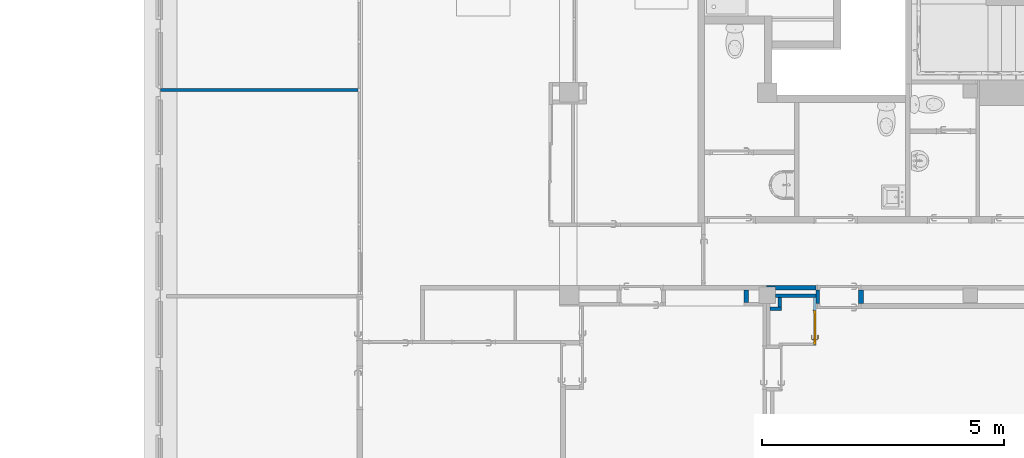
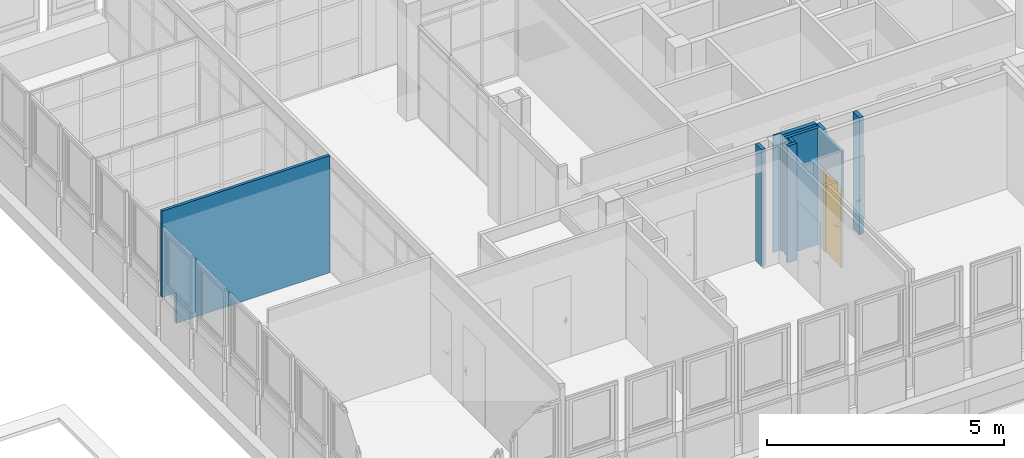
# One storey, part 73 of 97: 8 walls, 1 door, 2 openings, plus 1 element that does not belong to this part.
"""IFC4 building model written with IfcOpenShell, lengths in metres."""

import ifcopenshell
import ifcopenshell.guid

model = None  # the IFC model being written
_history = None  # IfcOwnerHistory: only IFC2X3 demands one
_inside = {}  # id of a spatial element -> (the spatial element, [elements in it])
_under = {}  # id of a project, library or spatial element -> (it, [spatial elements below it])
_declared = {}  # id of a project -> (the project, [libraries it declares])
_typed = {}  # id of a type object -> (the type object, [elements of that type])
_made_of = {}  # id of a material, layer set ... -> (it, [elements and type objects made of it])


def new_model(schema):
    """Start an empty IFC model of exactly this schema.

    Asked for "IFC4X3", IfcOpenShell would pick the latest addendum, in which some entities
    have other attributes; the version numbers below select the first issue.
    IFC2X3 requires an IfcOwnerHistory on every rooted entity: one is made here for all.
    """
    global model, _history
    if schema == "IFC4X3":
        model = ifcopenshell.file(schema_version=(4, 3, 0, 0))
    else:
        model = ifcopenshell.file(schema=schema)
    _inside.clear()
    _under.clear()
    _declared.clear()
    _typed.clear()
    _made_of.clear()
    _history = None
    if model.schema == "IFC2X3":
        org = make("IfcOrganization", Name="unknown")
        user = make(
            "IfcPersonAndOrganization",
            ThePerson=make("IfcPerson", FamilyName="unknown"),
            TheOrganization=org,
        )
        app = make(
            "IfcApplication",
            ApplicationDeveloper=org,
            Version="unknown",
            ApplicationFullName="unknown",
            ApplicationIdentifier="unknown",
        )
        _history = make(
            "IfcOwnerHistory",
            OwningUser=user,
            OwningApplication=app,
            ChangeAction="ADDED",
            CreationDate=0,
        )
    return model


def make(cls, **values):
    """One entity of the class cls with the attributes given. An attribute that is None is left unset."""
    return model.create_entity(
        cls, **{name: value for name, value in values.items() if value is not None}
    )


def entity(cls, *values):
    """Any entity or typed value of the class cls, its attributes in the order of the schema. None: left unset."""
    e = model.create_entity(cls)
    for i, value in enumerate(values):
        if value is not None:
            e[i] = value
    return e


def rooted(cls, **values):
    """An entity with a GlobalId (a new one), such as an element, a storey or a relation."""
    return make(cls, GlobalId=ifcopenshell.guid.new(), OwnerHistory=_history, **values)


def si_unit(unit_type, name, prefix=None):
    """IfcSIUnit, for example si_unit("LENGTHUNIT", "METRE", prefix="MILLI")."""
    return make("IfcSIUnit", UnitType=unit_type, Prefix=prefix, Name=name)


def converted_unit(unit_type, name, factor, base, dimensions=None, offset=None):
    """IfcConversionBasedUnit, such as the inch: factor (a typed value) times the base unit."""
    return make(
        "IfcConversionBasedUnit"
        if offset is None
        else "IfcConversionBasedUnitWithOffset",
        ConversionOffset=offset,
        Dimensions=None
        if dimensions is None
        else entity("IfcDimensionalExponents", *dimensions),
        UnitType=unit_type,
        Name=name,
        ConversionFactor=make(
            "IfcMeasureWithUnit", ValueComponent=factor, UnitComponent=base
        ),
    )


def derived_unit(unit_type, elements):
    """IfcDerivedUnit: a product of units, each with its exponent."""
    return make(
        "IfcDerivedUnit",
        Elements=[
            make("IfcDerivedUnitElement", Unit=unit, Exponent=power)
            for unit, power in elements
        ],
        UnitType=unit_type,
    )


def assignment(units):
    """IfcUnitAssignment: the units of a project."""
    return None if units is None else make("IfcUnitAssignment", Units=units)


def point(xyz):
    """IfcCartesianPoint."""
    return None if xyz is None else make("IfcCartesianPoint", Coordinates=xyz)


def direction(xyz):
    """IfcDirection."""
    return None if xyz is None else make("IfcDirection", DirectionRatios=xyz)


def frame(location, z_axis=None, x_axis=None):
    """IfcAxis2Placement3D, a coordinate frame: its origin and axes. An axis left out is left unset."""
    return make(
        "IfcAxis2Placement3D",
        Location=point(location),
        Axis=direction(z_axis),
        RefDirection=direction(x_axis),
    )


def origin():
    """The frame at (0, 0, 0) with its axes left unset."""
    return frame((0.0, 0.0, 0.0))


def place(relative_to, where):
    """IfcLocalPlacement: puts the frame where relative to a parent placement (None: the world)."""
    return make(
        "IfcLocalPlacement", PlacementRelTo=relative_to, RelativePlacement=where
    )


def context(
    kind, dimensions, precision=None, world=None, true_north=None, identifier=None
):
    """IfcGeometricRepresentationContext, for example the 3D "Model" context."""
    return make(
        "IfcGeometricRepresentationContext",
        ContextIdentifier=identifier,
        ContextType=kind,
        CoordinateSpaceDimension=dimensions,
        Precision=precision,
        WorldCoordinateSystem=world,
        TrueNorth=true_north,
    )


def subcontext(parent, identifier, kind, view, scale=None):
    """IfcGeometricRepresentationSubContext, for example "Body" below "Model"."""
    return make(
        "IfcGeometricRepresentationSubContext",
        ContextIdentifier=identifier,
        ContextType=kind,
        ParentContext=parent,
        TargetScale=scale,
        TargetView=view,
    )


def project(units=None, contexts=None):
    """IfcProject with its units and contexts."""
    return rooted(
        "IfcProject",
        Name="project",
        RepresentationContexts=contexts,
        UnitsInContext=assignment(units),
    )


def spatial(cls, under=None, at=None, **own):
    """A site, building, storey or space (cls), placed at a placement, below another one or the project."""
    s = rooted(cls, ObjectPlacement=at, **own)
    if under is not None:
        _under.setdefault(under.id(), (under, []))[1].append(s)
    return s


def point_list(points):
    """IfcCartesianPointList2D or 3D."""
    cls = (
        "IfcCartesianPointList2D" if len(points[0]) == 2 else "IfcCartesianPointList3D"
    )
    return make(cls, CoordList=points)


def indexed_curve(points, segments=None, self_intersect=None):
    """IfcIndexedPolyCurve: lines and arcs through numbered points (the first is 1)."""
    return make(
        "IfcIndexedPolyCurve",
        Points=point_list(points),
        Segments=segments,
        SelfIntersect=self_intersect,
    )


def outline(outer, holes=None, kind="AREA"):
    """IfcArbitraryClosedProfileDef: a profile drawn as a closed curve; with holes, ...WithVoids."""
    if holes is None:
        return make("IfcArbitraryClosedProfileDef", ProfileType=kind, OuterCurve=outer)
    return make(
        "IfcArbitraryProfileDefWithVoids",
        ProfileType=kind,
        OuterCurve=outer,
        InnerCurves=holes,
    )


def extrude(swept, where, along, depth):
    """IfcExtrudedAreaSolid: the profile swept, set in the frame where, extruded along a direction by depth."""
    return make(
        "IfcExtrudedAreaSolid",
        SweptArea=swept,
        Position=where,
        ExtrudedDirection=direction(along),
        Depth=depth,
    )


def polygons(points, faces, closed=None, point_numbers=None):
    """IfcPolygonalFaceSet: a face is its outer loop, then its inner loops; points numbered from 1."""
    made = []
    for loops in faces:
        if len(loops) == 1:
            made.append(make("IfcIndexedPolygonalFace", CoordIndex=loops[0]))
        else:
            made.append(
                make(
                    "IfcIndexedPolygonalFaceWithVoids",
                    CoordIndex=loops[0],
                    InnerCoordIndices=loops[1:],
                )
            )
    return make(
        "IfcPolygonalFaceSet",
        Coordinates=point_list(points),
        Closed=closed,
        Faces=made,
        PnIndex=point_numbers,
    )


def shape(context_of_items, identifier, shape_type, items):
    """IfcShapeRepresentation: the items that make up one representation, for example the "Body"."""
    return make(
        "IfcShapeRepresentation",
        ContextOfItems=context_of_items,
        RepresentationIdentifier=identifier,
        RepresentationType=shape_type,
        Items=items,
    )


def source(mapping_origin, context_of_items, identifier, shape_type, items):
    """IfcRepresentationMap: a shape defined once, which mapped items show again and again."""
    return make(
        "IfcRepresentationMap",
        MappingOrigin=mapping_origin,
        MappedRepresentation=shape(context_of_items, identifier, shape_type, items),
    )


def transform(
    local_origin,
    x_axis=None,
    y_axis=None,
    z_axis=None,
    scale=None,
    scale2=None,
    scale3=None,
    uniform=True,
):
    """IfcCartesianTransformationOperator3D, or its non-uniform kind. x_axis, y_axis, z_axis: its Axis1, 2, 3."""
    if uniform:
        return make(
            "IfcCartesianTransformationOperator3D",
            Axis1=direction(x_axis),
            Axis2=direction(y_axis),
            LocalOrigin=point(local_origin),
            Scale=scale,
            Axis3=direction(z_axis),
        )
    return make(
        "IfcCartesianTransformationOperator3DnonUniform",
        Axis1=direction(x_axis),
        Axis2=direction(y_axis),
        LocalOrigin=point(local_origin),
        Scale=scale,
        Axis3=direction(z_axis),
        Scale2=scale2,
        Scale3=scale3,
    )


def mapped(mapping_source, mapping_target):
    """IfcMappedItem: shows the shape of a source again, moved by a transform."""
    return make(
        "IfcMappedItem", MappingSource=mapping_source, MappingTarget=mapping_target
    )


def material(Name=None, Category=None):
    """IfcMaterial."""
    return make("IfcMaterial", Name=Name, Category=Category)


def material_list(materials):
    """IfcMaterialList."""
    return make("IfcMaterialList", Materials=materials)


def layer(
    of_material, thickness, ventilated=None, Name=None, Category=None, Priority=None
):
    """IfcMaterialLayer: one layer of a wall or slab, of a material (None: an air gap)."""
    return make(
        "IfcMaterialLayer",
        Material=of_material,
        LayerThickness=thickness,
        IsVentilated=ventilated,
        Name=Name,
        Category=Category,
        Priority=Priority,
    )


def layer_set(layers, Name=None):
    """IfcMaterialLayerSet."""
    return make("IfcMaterialLayerSet", MaterialLayers=layers, LayerSetName=Name)


def constituent(of_material, Name=None, Category=None, fraction=None):
    """IfcMaterialConstituent: one of the materials an element consists of."""
    return make(
        "IfcMaterialConstituent",
        Name=Name,
        Material=of_material,
        Fraction=fraction,
        Category=Category,
    )


def constituent_set(constituents=None, Name=None):
    """IfcMaterialConstituentSet."""
    return make(
        "IfcMaterialConstituentSet", Name=Name, MaterialConstituents=constituents
    )


def made_of(thing, what):
    """Note that an element or type object is made of a material, layer set ...; save() writes the relation."""
    if what is not None:
        _made_of.setdefault(what.id(), (what, []))[1].append(thing)
    return thing


def type_object(cls, material=None, **own):
    """A type object (cls), such as IfcWallType, which elements share."""
    return made_of(rooted(cls, **own), material)


def type_shapes(of_type, sources):
    """Give a type object the sources (RepresentationMaps) that its elements show as mapped items."""
    of_type.RepresentationMaps = sources


def element(
    cls,
    number,
    at=None,
    inside=None,
    cuts=None,
    type_object=None,
    material=None,
    context=None,
    identifier="Body",
    shape_type=None,
    held_by="IfcProductDefinitionShape",
    body=None,
    shapes=None,
    **own,
):
    """One element of the class cls, such as IfcWall. Its Tag is "e" and its number.

    at: its placement. inside: the storey or other place that contains it. cuts: it is an
    opening in that element (IfcRelVoidsElement). A single representation is given by context,
    identifier, shape_type and body (its items); several are given by shapes. held_by: the class
    of the entity that holds the representations. save() writes the other relations.
    """
    e = rooted(cls, Tag="e%d" % number, ObjectPlacement=at, **own)
    if body is not None:
        shapes = [shape(context, identifier, shape_type, body)]
    if shapes is not None:
        e.Representation = make(held_by, Representations=shapes)
    if inside is not None:
        _inside.setdefault(inside.id(), (inside, []))[1].append(e)
    if cuts is not None:
        rooted(
            "IfcRelVoidsElement", RelatingBuildingElement=cuts, RelatedOpeningElement=e
        )
    if type_object is not None:
        _typed.setdefault(type_object.id(), (type_object, []))[1].append(e)
    return made_of(e, material)


def fill(opening, filler):
    """IfcRelFillsElement: the door or window that sits in an opening."""
    return rooted(
        "IfcRelFillsElement",
        RelatingOpeningElement=opening,
        RelatedBuildingElement=filler,
    )


def aggregate(whole, parts):
    """IfcRelAggregates: a whole, such as a stair, and the parts it consists of."""
    return rooted("IfcRelAggregates", RelatingObject=whole, RelatedObjects=parts)


def save(model, path):
    """Write the relations noted so far, then the file.

    IfcRelAggregates (storeys below a building ...), IfcRelContainedInSpatialStructure (elements
    in a storey), IfcRelDefinesByType, IfcRelAssociatesMaterial and IfcRelDeclares: one each for
    every whole, place, type object, material and project.
    """
    for whole, parts in _under.values():
        aggregate(whole, parts)
    for where, things in _inside.values():
        rooted(
            "IfcRelContainedInSpatialStructure",
            RelatedElements=things,
            RelatingStructure=where,
        )
    for kind, things in _typed.values():
        rooted("IfcRelDefinesByType", RelatedObjects=things, RelatingType=kind)
    for what, things in _made_of.values():
        rooted("IfcRelAssociatesMaterial", RelatedObjects=things, RelatingMaterial=what)
    for by, libraries in _declared.values():
        rooted("IfcRelDeclares", RelatingContext=by, RelatedDefinitions=libraries)
    model.write(path)


model = new_model("IFC4")

# Units and contexts
model_context = context("Model", 3, precision=1e-05, world=origin(), true_north=direction((6.12303176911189e-17, 1.0)))
body_context = subcontext(model_context, "Body", "Model", "MODEL_VIEW")
ifc_project = project(units=[si_unit("LENGTHUNIT", "METRE"), si_unit("AREAUNIT", "SQUARE_METRE"), si_unit("VOLUMEUNIT", "CUBIC_METRE"), converted_unit("PLANEANGLEUNIT", "DEGREE", entity("IfcRatioMeasure", 0.0174532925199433), si_unit("PLANEANGLEUNIT", "RADIAN"), dimensions=[0, 0, 0, 0, 0, 0, 0]), si_unit("MASSUNIT", "GRAM", prefix="KILO"), derived_unit("MASSDENSITYUNIT", [(si_unit("MASSUNIT", "GRAM", prefix="KILO"), 1), (si_unit("LENGTHUNIT", "METRE"), -3)]), derived_unit("MOMENTOFINERTIAUNIT", [(si_unit("LENGTHUNIT", "METRE"), 4)]), si_unit("TIMEUNIT", "SECOND"), si_unit("FREQUENCYUNIT", "HERTZ"), si_unit("THERMODYNAMICTEMPERATUREUNIT", "DEGREE_CELSIUS"), derived_unit("THERMALTRANSMITTANCEUNIT", [(si_unit("MASSUNIT", "GRAM", prefix="KILO"), 1), (si_unit("THERMODYNAMICTEMPERATUREUNIT", "KELVIN"), -1), (si_unit("TIMEUNIT", "SECOND"), -3)]), derived_unit("VOLUMETRICFLOWRATEUNIT", [(si_unit("LENGTHUNIT", "METRE"), 3), (si_unit("TIMEUNIT", "SECOND"), -1)]), si_unit("ELECTRICCURRENTUNIT", "AMPERE"), si_unit("ELECTRICVOLTAGEUNIT", "VOLT"), si_unit("POWERUNIT", "WATT"), si_unit("FORCEUNIT", "NEWTON", prefix="KILO"), si_unit("ILLUMINANCEUNIT", "LUX"), si_unit("LUMINOUSFLUXUNIT", "LUMEN"), si_unit("LUMINOUSINTENSITYUNIT", "CANDELA"), derived_unit("USERDEFINED", [(si_unit("MASSUNIT", "GRAM", prefix="KILO"), -1), (si_unit("LENGTHUNIT", "METRE"), -2), (si_unit("TIMEUNIT", "SECOND"), 3), (si_unit("LUMINOUSFLUXUNIT", "LUMEN"), 1)]), derived_unit("LINEARVELOCITYUNIT", [(si_unit("LENGTHUNIT", "METRE"), 1), (si_unit("TIMEUNIT", "SECOND"), -1)]), si_unit("PRESSUREUNIT", "PASCAL"), derived_unit("USERDEFINED", [(si_unit("LENGTHUNIT", "METRE"), -2), (si_unit("MASSUNIT", "GRAM", prefix="KILO"), 1), (si_unit("TIMEUNIT", "SECOND"), -2)]), derived_unit("LINEARFORCEUNIT", [(si_unit("MASSUNIT", "GRAM", prefix="KILO"), 1), (si_unit("LENGTHUNIT", "METRE"), 1), (si_unit("TIMEUNIT", "SECOND"), -2), (si_unit("LENGTHUNIT", "METRE"), -1)]), derived_unit("PLANARFORCEUNIT", [(si_unit("MASSUNIT", "GRAM", prefix="KILO"), 1), (si_unit("LENGTHUNIT", "METRE"), 1), (si_unit("TIMEUNIT", "SECOND"), -2), (si_unit("LENGTHUNIT", "METRE"), -2)])], contexts=[model_context])

# Site, building, storey
site_placement = place(None, origin())
site = spatial("IfcSite", under=ifc_project, at=site_placement, Name="Default", CompositionType="ELEMENT")
building_placement = place(site_placement, origin())
building = spatial("IfcBuilding", under=site, at=building_placement, Name="HOTEL CONSULAIRE BOULOGNE SUR MER", CompositionType="ELEMENT")
storey_placement = place(building_placement, frame((0.0, 0.0, 3.62152697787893)))
storey = spatial("IfcBuildingStorey", under=building, at=storey_placement, Name="Niveau 1", CompositionType="ELEMENT", Elevation=3.62152697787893)

# Wall, opening, door
ifc_material_1 = material(Name="Mur par défaut", Category="Divers")
ifc_layer_1 = layer(ifc_material_1, 0.05, Name="Mur par défaut", Category="Divers")
ifc_layer_set_1 = layer_set([ifc_layer_1], Name="Mur de base:Générique - Int.50")
wall_type_1 = type_object("IfcWallType", Name="Mur de base:Générique - Int.50", PredefinedType="NOTDEFINED", material=ifc_layer_set_1)
wall_1_placement = place(storey_placement, frame((-0.252433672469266, -24.0647268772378, 0.0), z_axis=(0.0, 0.0, 1.0), x_axis=(0.0, -1.0, 0.0)))
wall_1 = element("IfcWall", 1, at=wall_1_placement, inside=storey, type_object=wall_type_1, material=ifc_layer_set_1, Name="Mur de base:Générique - Int.50", ObjectType="Mur de base:Générique - Int.50", PredefinedType="NOTDEFINED", context=body_context, shape_type="Tessellation", body=[
    polygons([(0.269964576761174, -0.0250000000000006, 0.0), (0.0, -0.0250000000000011, 0.0), (0.0, 0.0250000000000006, 0.0), (0.125964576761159, 0.0250000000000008, 0.0), (0.225964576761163, 0.0250000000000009, 0.0), (0.269964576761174, 0.025000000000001, 0.0), (0.990964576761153, -0.025, 3.01021454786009), (0.940964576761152, -0.025, 3.01021454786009), (0.0, -0.025, 3.01021454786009), (0.26996457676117, -0.025, 2.07500000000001), (0.969964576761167, -0.025, 2.07500000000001), (0.969964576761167, -0.025, 0.0), (0.990964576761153, -0.025, 0.0), (0.0, 0.025, 3.01021454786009), (0.125964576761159, 0.025, 3.01021454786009), (0.225964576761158, 0.025, 3.01021454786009), (0.990964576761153, 0.025, 3.01021454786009), (0.990964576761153, 0.025, 0.0), (0.969964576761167, 0.025, 0.0), (0.969964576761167, 0.025, 2.07500000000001), (0.269964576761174, 0.025, 2.07500000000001)], [[[5, 6, 1, 2, 3, 4]], [[11, 10, 21, 20]], [[12, 19, 18, 13]], [[2, 1, 10, 11, 12, 13, 7, 8, 9]], [[18, 19, 20, 21, 6, 5, 4, 3, 14, 15, 16, 17]], [[8, 7, 17, 16, 15, 14, 9]], [[7, 13, 18, 17]], [[10, 1, 6, 21]], [[12, 11, 20, 19]], [[3, 2, 9, 14]]], closed=True),
])
opening_1_placement = place(wall_1_placement, frame((0.269964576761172, -0.0249999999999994, 0.0)))
opening_1 = element("IfcOpeningElement", 2, at=opening_1_placement, cuts=wall_1, Name="Int. Simple:PP (0.63m x 2.04m):1", ObjectType="Opening", PredefinedType="OPENING", context=body_context, shape_type="SweptSolid", body=[
    extrude(outline(indexed_curve([(0.0, 2.70716782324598e-15), (2.07500000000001, 2.70716782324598e-15), (2.07500000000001, 0.699999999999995), (0.0, 0.699999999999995), (0.0, 2.70716782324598e-15)], self_intersect=False)), frame((0.0, 0.0, 0.0), z_axis=(0.0, 1.0, 0.0), x_axis=(0.0, 0.0, 1.0)), (0.0, 0.0, 1.0), 0.05),
])
ifc_material_2 = material(Name="Finition Peinture - Blanc satiné", Category="Peinture")
ifc_constituent_1 = constituent(ifc_material_2, Name="Finition Peinture - Blanc satiné", Category="Matériaux")
ifc_material_3 = material(Name="Bois - Panneau de porte", Category="Bois")
ifc_constituent_2 = constituent(ifc_material_3, Name="Bois - Panneau de porte", Category="Matériaux")
ifc_material_4 = material(Name="Bois - Cadre de porte", Category="Bois")
ifc_constituent_3 = constituent(ifc_material_4, Name="Bois - Cadre de porte", Category="Matériaux")
ifc_constituent_set = constituent_set(constituents=[ifc_constituent_1, ifc_constituent_2, ifc_constituent_3], Name="MaterialConstituentSet")
ifc_material_list = material_list([ifc_material_4, ifc_material_3, ifc_material_2, ifc_material_4])
door_type = type_object("IfcDoorType", Name="Int. Simple:PP (0.63m x 2.04m)", OperationType="NOTDEFINED", PredefinedType="DOOR", material=ifc_material_list)
shared_shape = source(origin(), body_context, "Body", "Tessellation", [
    polygons([(0.0750000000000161, -0.00500000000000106, 0.870000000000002), (0.0846472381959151, -0.00500000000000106, 0.866003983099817), (0.0950000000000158, -0.00500000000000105, 0.86464101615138), (0.105352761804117, -0.00500000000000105, 0.866003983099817), (0.115000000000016, -0.00500000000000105, 0.870000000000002), (0.115000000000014, -0.00500000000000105, 1.08), (0.105352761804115, -0.00500000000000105, 1.08399601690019), (0.0950000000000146, -0.00500000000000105, 1.08535898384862), (0.0846472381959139, -0.00500000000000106, 1.08399601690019), (0.0750000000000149, -0.00500000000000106, 1.08), (0.0750000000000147, -1.06594733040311e-15, 0.870000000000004), (0.075000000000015, -1.06594733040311e-15, 1.08), (0.084647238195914, -1.06171738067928e-15, 1.08399601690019), (0.0950000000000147, -1.05748743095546e-15, 1.08535898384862), (0.105352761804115, -1.05325748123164e-15, 1.08399601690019), (0.115000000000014, -1.04902753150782e-15, 1.08), (0.115000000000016, -1.04902753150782e-15, 0.870000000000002), (0.105352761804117, -1.05325748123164e-15, 0.866003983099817), (0.0950000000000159, -1.05748743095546e-15, 0.86464101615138), (0.0846472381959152, -1.06171738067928e-15, 0.866003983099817)], [[[4, 5, 6, 7, 8, 9, 10, 1, 2, 3]], [[15, 16, 17, 18, 19, 20, 11, 12, 13, 14]], [[11, 20, 2, 1]], [[2, 20, 19, 3]], [[19, 18, 4, 3]], [[18, 17, 5, 4]], [[6, 5, 17, 16]], [[16, 15, 7, 6]], [[7, 15, 14, 8]], [[14, 13, 9, 8]], [[13, 12, 10, 9]], [[1, 10, 12, 11]]], closed=True),
    polygons([(0.115000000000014, 0.0399999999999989, 1.08), (0.105352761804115, 0.0399999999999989, 1.08399601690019), (0.0950000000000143, 0.0399999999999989, 1.08535898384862), (0.0846472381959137, 0.0399999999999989, 1.08399601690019), (0.0750000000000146, 0.0399999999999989, 1.08), (0.0750000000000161, 0.0399999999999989, 0.870000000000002), (0.0846472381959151, 0.0399999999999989, 0.866003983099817), (0.0950000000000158, 0.0399999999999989, 0.86464101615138), (0.105352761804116, 0.0399999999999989, 0.866003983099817), (0.115000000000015, 0.0399999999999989, 0.870000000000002), (0.115000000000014, 0.0449999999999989, 1.08), (0.115000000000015, 0.0449999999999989, 0.870000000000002), (0.105352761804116, 0.0449999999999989, 0.866003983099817), (0.0950000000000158, 0.0449999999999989, 0.86464101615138), (0.0846472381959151, 0.0449999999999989, 0.866003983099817), (0.0750000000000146, 0.0449999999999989, 0.870000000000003), (0.0750000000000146, 0.0449999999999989, 1.08), (0.0846472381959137, 0.0449999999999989, 1.08399601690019), (0.0950000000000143, 0.0449999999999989, 1.08535898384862), (0.105352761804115, 0.0449999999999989, 1.08399601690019)], [[[9, 10, 1, 2, 3, 4, 5, 6, 7, 8]], [[20, 11, 12, 13, 14, 15, 16, 17, 18, 19]], [[11, 20, 2, 1]], [[2, 20, 19, 3]], [[19, 18, 4, 3]], [[18, 17, 5, 4]], [[6, 5, 17, 16]], [[16, 15, 7, 6]], [[7, 15, 14, 8]], [[14, 13, 9, 8]], [[13, 12, 10, 9]], [[1, 10, 12, 11]]], closed=True),
    polygons([(0.0889999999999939, -0.00500000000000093, 1.007), (0.0929747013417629, -0.00500000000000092, 1.00778044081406), (0.0970252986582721, -0.0050000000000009, 1.00778044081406), (0.101000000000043, -0.00500000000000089, 1.00699999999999), (0.101000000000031, -0.00500000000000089, 0.993000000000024), (0.097025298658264, -0.0050000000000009, 0.992219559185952), (0.0929747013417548, -0.00500000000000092, 0.99221955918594), (0.088999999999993, -0.00500000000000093, 0.992999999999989), (0.0889999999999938, -0.0326509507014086, 1.007), (0.0929747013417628, -0.0310045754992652, 1.00778044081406), (0.097025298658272, -0.0293267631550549, 1.00778044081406), (0.101000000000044, -0.0276803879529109, 1.007), (0.101000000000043, -0.0276803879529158, 0.993000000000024), (0.097025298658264, -0.0293267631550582, 0.992219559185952), (0.0929747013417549, -0.0310045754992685, 0.99221955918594), (0.0889999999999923, -0.0326509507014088, 0.992999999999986), (0.107377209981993, -0.0510281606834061, 1.007), (0.109023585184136, -0.0470534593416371, 1.00778044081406), (0.110701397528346, -0.0430028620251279, 1.00778044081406), (0.112347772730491, -0.0390281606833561, 1.007), (0.112347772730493, -0.0390281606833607, 0.993000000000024), (0.110701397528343, -0.0430028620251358, 0.992219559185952), (0.109023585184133, -0.047053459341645, 0.99221955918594), (0.107377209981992, -0.0510281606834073, 0.992999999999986), (0.195018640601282, -0.0510281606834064, 1.00699999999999), (0.195018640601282, -0.0510281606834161, 0.992999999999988), (0.195018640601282, -0.0470534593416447, 0.99221955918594), (0.195018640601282, -0.0430028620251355, 0.992219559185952), (0.195018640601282, -0.039028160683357, 0.993000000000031), (0.195018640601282, -0.0390281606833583, 1.007), (0.195018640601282, -0.0430028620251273, 1.00778044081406), (0.195018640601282, -0.0470534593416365, 1.00778044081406), (0.147307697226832, -0.0510281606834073, 1.007), (0.152860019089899, -0.045028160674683, 1.0078786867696), (0.153683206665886, -0.039028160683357, 1.007), (0.147307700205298, -0.0510281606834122, 0.992999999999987), (0.152860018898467, -0.0450281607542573, 0.992121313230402), (0.153683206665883, -0.0390281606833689, 0.993000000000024)], [[[2, 3, 4, 5, 6, 7, 8, 1]], [[21, 20, 35, 30, 29, 38]], [[9, 10, 2, 1]], [[10, 18, 19, 11, 3, 2]], [[11, 12, 4, 3]], [[5, 4, 12, 13]], [[26, 27, 28, 29, 30, 31, 32, 25]], [[13, 14, 6, 5]], [[14, 22, 23, 15, 7, 6]], [[15, 16, 8, 7]], [[1, 8, 16, 9]], [[17, 18, 10, 9]], [[19, 20, 12, 11]], [[13, 12, 20, 21]], [[21, 22, 14, 13]], [[23, 24, 16, 15]], [[9, 16, 24, 17]], [[33, 32, 34]], [[25, 32, 33]], [[18, 17, 33]], [[34, 35, 19]], [[20, 19, 35]], [[35, 31, 30]], [[32, 31, 34]], [[31, 35, 34]], [[18, 33, 34]], [[18, 34, 19]], [[38, 28, 37]], [[36, 37, 27]], [[21, 38, 22]], [[38, 29, 28]], [[26, 36, 27]], [[24, 23, 36]], [[36, 23, 37]], [[23, 22, 37]], [[22, 38, 37]], [[27, 37, 28]], [[17, 24, 36, 26, 25, 33]]], closed=True),
    polygons([(0.101000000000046, 0.0449999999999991, 0.993000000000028), (0.101000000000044, 0.0449999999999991, 1.007), (0.0970252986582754, 0.0449999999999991, 1.00778044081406), (0.0929747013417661, 0.0449999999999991, 1.00778044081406), (0.0889999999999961, 0.044999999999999, 1.007), (0.0889999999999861, 0.044999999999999, 0.992999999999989), (0.0929747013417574, 0.0449999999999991, 0.99221955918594), (0.0970252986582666, 0.0449999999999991, 0.992219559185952), (0.101000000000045, 0.067485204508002, 0.993000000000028), (0.101000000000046, 0.0674852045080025, 1.007), (0.0970252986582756, 0.0691315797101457, 1.00778044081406), (0.0929747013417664, 0.070809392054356, 1.00778044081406), (0.0889999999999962, 0.0724557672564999, 1.007), (0.0889999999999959, 0.072455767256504, 0.992999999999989), (0.0929747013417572, 0.0708093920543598, 0.99221955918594), (0.0970252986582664, 0.0691315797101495, 0.992219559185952), (0.112485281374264, 0.0789704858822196, 0.993000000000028), (0.112485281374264, 0.0789704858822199, 1.007), (0.11083890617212, 0.0829451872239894, 1.00778044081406), (0.10916109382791, 0.0869957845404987, 1.00778044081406), (0.107514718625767, 0.0909704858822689, 1.007), (0.107514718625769, 0.090970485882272, 0.992999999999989), (0.109161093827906, 0.0869957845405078, 0.99221955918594), (0.110838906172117, 0.0829451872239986, 0.992219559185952), (0.19504578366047, 0.0789704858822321, 0.993000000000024), (0.19504578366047, 0.0829451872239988, 0.992219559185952), (0.19504578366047, 0.086995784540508, 0.99221955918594), (0.19504578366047, 0.0909704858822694, 0.992999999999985), (0.19504578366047, 0.0909704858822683, 1.007), (0.19504578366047, 0.0869957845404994, 1.00778044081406), (0.19504578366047, 0.0829451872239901, 1.00778044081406), (0.19504578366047, 0.0789704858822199, 1.007), (0.147445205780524, 0.0909704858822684, 1.007), (0.15294234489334, 0.0849704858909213, 1.0078786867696), (0.153765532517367, 0.0789704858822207, 1.007), (0.147445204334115, 0.0909704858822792, 0.992999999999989), (0.152942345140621, 0.0849704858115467, 0.992121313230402), (0.153765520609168, 0.0789704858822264, 0.993000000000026)], [[[4, 5, 6, 7, 8, 1, 2, 3]], [[18, 17, 38, 25, 32, 35]], [[2, 1, 9, 10]], [[25, 26, 27, 28, 29, 30, 31, 32]], [[10, 11, 3, 2]], [[11, 19, 20, 12, 4, 3]], [[12, 13, 5, 4]], [[6, 5, 13, 14]], [[14, 15, 7, 6]], [[15, 23, 24, 16, 8, 7]], [[16, 9, 1, 8]], [[10, 9, 17, 18]], [[18, 19, 11, 10]], [[20, 21, 13, 12]], [[14, 13, 21, 22]], [[22, 23, 15, 14]], [[24, 17, 9, 16]], [[35, 31, 34]], [[33, 34, 30]], [[18, 35, 19]], [[35, 32, 31]], [[29, 33, 30]], [[21, 20, 33]], [[33, 20, 34]], [[20, 19, 34]], [[19, 35, 34]], [[30, 34, 31]], [[21, 33, 29, 28, 36, 22]], [[36, 27, 37]], [[28, 27, 36]], [[23, 22, 36]], [[37, 38, 24]], [[17, 24, 38]], [[38, 26, 25]], [[27, 26, 37]], [[26, 38, 37]], [[23, 36, 37]], [[23, 37, 24]]], closed=True),
    polygons([(0.0350000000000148, 0.04, 2.04), (0.665000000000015, 0.04, 2.04), (0.665000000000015, 0.04, 0.0), (0.0350000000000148, 0.04, 0.0), (0.0350000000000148, 3.38395977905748e-17, 2.04), (0.0350000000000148, 3.38395977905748e-17, 0.0), (0.665000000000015, 3.38395977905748e-17, 0.0), (0.665000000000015, 3.38395977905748e-17, 2.04)], [[[4, 1, 2, 3]], [[7, 8, 5, 6]], [[2, 1, 5, 8]], [[3, 2, 8, 7]], [[4, 3, 7, 6]], [[1, 4, 6, 5]]], closed=True),
    polygons([(-2.70716782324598e-16, 0.0, 0.0), (-2.70716782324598e-16, 0.050000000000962, 0.0), (0.050000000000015, 0.050000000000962, 0.0), (0.050000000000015, 0.040000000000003, 0.0), (0.0350000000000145, 0.040000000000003, 0.0), (0.0350000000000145, 0.0, 0.0), (-2.03037586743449e-16, 0.0, 2.07500000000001), (-2.03037586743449e-16, 0.050000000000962, 2.07500000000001), (0.699999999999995, 0.050000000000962, 2.07500000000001), (0.699999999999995, 0.050000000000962, 1.16645647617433e-24), (0.64999999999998, 0.050000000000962, -1.79828591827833e-24), (0.64999999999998, 0.050000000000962, 2.025), (0.0500000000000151, 0.050000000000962, 2.02499999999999), (0.0500000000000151, 0.040000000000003, 2.02499999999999), (0.64999999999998, 0.040000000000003, 2.025), (0.64999999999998, 0.040000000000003, 1.49408317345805e-25), (0.66499999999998, 0.040000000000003, 1.4641916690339e-24), (0.66499999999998, 0.040000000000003, 2.04), (0.0350000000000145, 0.040000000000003, 2.04), (0.0350000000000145, 0.0, 2.04), (0.66499999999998, 0.0, 2.04), (0.66499999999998, 0.0, 0.0), (0.699999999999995, 0.0, 4.03399441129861e-24), (0.699999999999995, 0.0, 2.07500000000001)], [[[5, 6, 1, 2, 3, 4]], [[16, 11, 10, 23, 22, 17]], [[14, 13, 12, 15]], [[20, 19, 18, 21]], [[2, 1, 7, 8]], [[15, 12, 11, 16]], [[21, 18, 17, 22]], [[3, 2, 8, 9, 10, 11, 12, 13]], [[4, 3, 13, 14]], [[6, 5, 19, 20]], [[9, 24, 23, 10]], [[16, 17, 18, 19, 5, 4, 14, 15]], [[22, 23, 24, 7, 1, 6, 20, 21]], [[8, 7, 24, 9]]], closed=True),
    polygons([(0.0149999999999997, 0.050000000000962, 0.0), (-0.0150000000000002, 0.050000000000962, 0.0), (-0.0150000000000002, 0.055000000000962, 0.0), (0.0149999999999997, 0.055000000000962, 0.0), (0.0149999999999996, 0.050000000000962, 2.06000000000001), (0.684999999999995, 0.050000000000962, 2.06000000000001), (0.684999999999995, 0.050000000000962, -5.40476895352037e-24), (0.714999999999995, 0.050000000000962, 1.09662010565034e-24), (0.714999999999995, 0.050000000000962, 2.09000000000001), (-0.0150000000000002, 0.050000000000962, 2.09000000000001), (-0.0150000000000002, 0.055000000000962, 2.09000000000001), (0.714999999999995, 0.055000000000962, 2.09000000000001), (0.714999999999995, 0.055000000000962, 9.94022571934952e-24), (0.684999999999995, 0.055000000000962, 3.01102000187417e-24), (0.684999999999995, 0.055000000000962, 2.06000000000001), (0.0149999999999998, 0.055000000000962, 2.06000000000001)], [[[2, 3, 4, 1]], [[14, 13, 8, 7]], [[5, 16, 15, 6]], [[7, 8, 9, 10, 2, 1, 5, 6]], [[3, 2, 10, 11]], [[6, 15, 14, 7]], [[4, 3, 11, 12, 13, 14, 15, 16]], [[1, 4, 16, 5]], [[12, 9, 8, 13]], [[11, 10, 9, 12]]], closed=True),
    polygons([(0.684999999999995, -0.005, -5.41433564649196e-16), (0.684999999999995, 0.0, -5.41433564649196e-16), (0.714999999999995, 0.0, -5.41433564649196e-16), (0.714999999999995, -0.005, -5.41433564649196e-16), (0.0149999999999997, -0.005, 0.0), (-0.0150000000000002, -0.005, 0.0), (-0.0150000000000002, 0.0, 0.0), (0.0149999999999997, 0.0, 0.0), (0.0149999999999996, -0.005, 2.06000000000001), (0.684999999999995, -0.005, 2.06000000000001), (0.714999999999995, -0.005, 2.09000000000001), (-0.0150000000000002, -0.005, 2.09000000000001), (-0.0150000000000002, 0.0, 2.09000000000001), (0.714999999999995, 0.0, 2.09000000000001), (0.684999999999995, 0.0, 2.06000000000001), (0.0149999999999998, 0.0, 2.06000000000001)], [[[2, 3, 4, 1]], [[6, 7, 8, 5]], [[9, 16, 15, 10]], [[1, 4, 11, 12, 6, 5, 9, 10]], [[7, 6, 12, 13]], [[10, 15, 2, 1]], [[8, 7, 13, 14, 3, 2, 15, 16]], [[5, 8, 16, 9]], [[14, 11, 4, 3]], [[13, 12, 11, 14]]], closed=True),
])
type_shapes(door_type, [shared_shape])
door_placement = place(opening_1_placement, frame((0.699999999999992, 0.0499999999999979, 0.0), z_axis=(0.0, 0.0, 1.0), x_axis=(-1.0, 0.0, 0.0)))
door = element("IfcDoor", 3, at=door_placement, inside=storey, type_object=door_type, material=ifc_constituent_set, Name="Int. Simple:PP (0.63m x 2.04m)", ObjectType="Int. Simple:PP (0.63m x 2.04m)", OperationType="NOTDEFINED", OverallHeight=2.07500000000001, OverallWidth=0.699999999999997, PredefinedType="DOOR", context=body_context, shape_type="MappedRepresentation", body=[
    mapped(shared_shape, transform((0.0, 0.0, 0.0), scale=1.0)),
])
fill(opening_1, door)

# Wall, opening
ifc_layer_2 = layer(ifc_material_1, 0.07, Name="Mur par défaut", Category="Divers")
ifc_layer_set_2 = layer_set([ifc_layer_2], Name="Mur de base:Générique - Int. 70 mm")
wall_type_2 = type_object("IfcWallType", Name="Mur de base:Générique - Int. 70 mm", PredefinedType="NOTDEFINED", material=ifc_layer_set_2)
wall_2_placement = place(storey_placement, frame((-13.7881025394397, -19.7723346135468, 0.0)))
wall_2 = element("IfcWall", 4, at=wall_2_placement, inside=storey, type_object=wall_type_2, material=ifc_layer_set_2, Name="Mur de base:Générique - Int. 70 mm", ObjectType="Mur de base:Générique - Int. 70 mm", PredefinedType="NOTDEFINED", context=body_context, shape_type="Tessellation", body=[
    polygons([(4.08847789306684, -0.0349999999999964, 3.01021454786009), (-8.50040605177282e-16, -0.0349999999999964, 3.01021454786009), (-8.50040605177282e-16, -0.0349999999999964, 0.791612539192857), (0.345002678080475, -0.0350000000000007, 0.791612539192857), (0.345002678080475, -0.0350000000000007, 0.0), (4.08847789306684, -0.0349999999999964, 0.0), (-1.11491956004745e-15, 0.035000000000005, 3.01021454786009), (4.08847789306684, 0.035000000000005, 3.01021454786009), (4.08847789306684, 0.035000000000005, 0.0), (0.345002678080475, 0.0350000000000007, 0.0), (0.345002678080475, 0.0350000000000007, 0.791612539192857), (-1.11491956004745e-15, 0.035000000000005, 0.791612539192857)], [[[4, 5, 6, 1, 2, 3]], [[7, 8, 9, 10, 11, 12]], [[1, 6, 9, 8]], [[2, 1, 8, 7]], [[3, 2, 7, 12]], [[5, 4, 11, 10]], [[4, 3, 12, 11]], [[10, 9, 6, 5]]], closed=True),
])
opening_2_placement = place(wall_2_placement, origin())
element("IfcOpeningElement", 5, at=opening_2_placement, cuts=wall_2, Name="Mur de base:Générique - Int. 70 mm", ObjectType="Opening", PredefinedType="OPENING", context=body_context, shape_type="SweptSolid", body=[
    extrude(outline(indexed_curve([(-0.413306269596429, -0.172501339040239), (0.413306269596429, -0.172501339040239), (0.413306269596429, 0.172501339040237), (-0.413306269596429, 0.172501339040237), (-0.413306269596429, -0.172501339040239)], self_intersect=False)), frame((0.172501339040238, 0.0350000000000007, 0.378306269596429), z_axis=(0.0, -1.0, 0.0), x_axis=(0.0, 0.0, -1.0)), (0.0, 0.0, 1.0), 0.07),
])

# Walls
ifc_layer_3 = layer(ifc_material_1, 0.07, Name="Mur par défaut", Category="Divers")
ifc_layer_set_3 = layer_set([ifc_layer_3], Name="Mur de base:Int. Plâtre 70 mm")
wall_type_3 = type_object("IfcWallType", Name="Mur de base:Int. Plâtre 70 mm", PredefinedType="NOTDEFINED", material=ifc_layer_set_3)
wall_3_placement = place(storey_placement, frame((-0.227433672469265, -24.0297268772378, 0.0), z_axis=(0.0, 0.0, 1.0), x_axis=(-1.0, 0.0, 0.0)))
element("IfcWall", 6, at=wall_3_placement, inside=storey, type_object=wall_type_3, material=ifc_layer_set_3, Name="Mur de base:Int. Plâtre 70 mm", ObjectType="Mur de base:Int. Plâtre 70 mm", PredefinedType="NOTDEFINED", context=body_context, shape_type="Tessellation", body=[
    polygons([(4.28926793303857e-16, -0.0350000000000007, 3.01021454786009), (4.28926793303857e-16, -0.0350000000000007, 0.0), (0.831389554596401, -0.0349999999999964, 0.0), (0.831389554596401, -0.0349999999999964, 3.01021454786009), (1.16950466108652e-16, 0.0350000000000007, 0.0), (1.54316727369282e-17, 0.0350000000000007, 3.01021454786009), (0.05, 0.0350000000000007, 3.01021454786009), (0.713056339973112, 0.0350000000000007, 3.01021454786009), (0.783056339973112, 0.0350000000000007, 3.01021454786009), (0.8313895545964, 0.035000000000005, 3.01021454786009), (0.8313895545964, 0.035000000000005, 0.0), (0.783056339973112, 0.0350000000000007, 0.0), (0.713056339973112, 0.0350000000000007, 0.0), (0.0500000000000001, 0.0350000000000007, 0.0)], [[[1, 2, 3, 4]], [[11, 12, 13, 14, 5, 6, 7, 8, 9, 10]], [[1, 4, 10, 9, 8, 7, 6]], [[6, 5, 2, 1]], [[3, 2, 5, 14, 13, 12, 11]], [[3, 11, 10, 4]]], closed=True),
])
wall_4_placement = place(storey_placement, frame((-1.17414453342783, -24.2998802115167, 0.0)))
element("IfcWall", 7, at=wall_4_placement, inside=storey, type_object=wall_type_3, material=ifc_layer_set_3, Name="Mur de base:Int. Plâtre 70 mm", ObjectType="Mur de base:Int. Plâtre 70 mm", PredefinedType="NOTDEFINED", context=body_context, shape_type="Tessellation", body=[
    polygons([(0.233654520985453, -0.0350000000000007, 3.01021454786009), (0.0, -0.0350000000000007, 3.01021454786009), (0.0, -0.0350000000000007, 0.0), (0.233654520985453, -0.0350000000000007, 0.0), (1.35358391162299e-16, 0.0350000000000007, 3.01021454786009), (0.163654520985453, 0.0350000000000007, 3.01021454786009), (0.233654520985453, 0.0350000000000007, 3.01021454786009), (0.233654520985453, 0.0350000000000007, 0.0), (0.163654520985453, 0.0350000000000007, 0.0), (1.35358391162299e-16, 0.0350000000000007, 0.0)], [[[2, 3, 4, 1]], [[6, 7, 8, 9, 10, 5]], [[2, 1, 7, 6, 5]], [[1, 4, 8, 7]], [[10, 3, 2, 5]], [[9, 8, 4, 3, 10]]], closed=True),
])
wall_5_placement = place(storey_placement, frame((-0.975490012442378, -24.2648802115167, 0.0), z_axis=(0.0, 0.0, 1.0), x_axis=(0.0, 1.0, 0.0)))
element("IfcWall", 8, at=wall_5_placement, inside=storey, type_object=wall_type_3, material=ifc_layer_set_3, Name="Mur de base:Int. Plâtre 70 mm", ObjectType="Mur de base:Int. Plâtre 70 mm", PredefinedType="NOTDEFINED", context=body_context, shape_type="Tessellation", body=[
    polygons([(0.200153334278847, -0.035, 3.01021454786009), (0.0, -0.0349999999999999, 3.01021454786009), (0.0, -0.0349999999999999, 0.0), (0.200153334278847, -0.035, 0.0), (0.0, 0.035, 3.01021454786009), (0.200153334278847, 0.035, 3.01021454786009), (0.200153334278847, 0.035, 0.0), (0.0, 0.035, 0.0)], [[[2, 3, 4, 1]], [[6, 7, 8, 5]], [[2, 1, 6, 5]], [[8, 3, 2, 5]], [[4, 7, 6, 1]], [[4, 3, 8, 7]]], closed=True),
])
ifc_layer_4 = layer(ifc_material_1, 0.1, Name="Mur par défaut", Category="Divers")
ifc_layer_set_4 = layer_set([ifc_layer_4], Name="Mur de base:Générique - Int. 100 mm")
wall_type_4 = type_object("IfcWallType", Name="Mur de base:Générique - Int. 100 mm", PredefinedType="NOTDEFINED", material=ifc_layer_set_4)
wall_6_placement = place(storey_placement, frame((0.708580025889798, -24.190691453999, 0.0), z_axis=(0.0, 0.0, 1.0), x_axis=(0.0, 1.0, 0.0)))
element("IfcWall", 9, at=wall_6_placement, inside=storey, type_object=wall_type_4, material=ifc_layer_set_4, Name="Mur de base:Générique - Int. 100 mm", ObjectType="Mur de base:Générique - Int. 100 mm", PredefinedType="NOTDEFINED", context=body_context, shape_type="Tessellation", body=[
    polygons([(0.276000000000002, -0.05, 3.01021454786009), (0.0, -0.0499999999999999, 3.01021454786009), (0.0, -0.0499999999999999, 0.0), (0.276000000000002, -0.05, 0.0), (0.0, 0.0500000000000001, 3.01021454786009), (0.276000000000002, 0.05, 3.01021454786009), (0.276000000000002, 0.05, 0.0), (0.0, 0.0500000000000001, 0.0), (0.276000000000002, 0.00200000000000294, 0.0), (0.0, 0.00200000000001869, 0.0)], [[[2, 3, 4, 1]], [[6, 7, 8, 5]], [[2, 1, 6, 5]], [[9, 7, 6, 1, 4]], [[10, 3, 2, 5, 8]], [[4, 3, 10, 8, 7, 9]]], closed=True),
])
wall_7_placement = place(storey_placement, frame((-0.225433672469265, -23.864691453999, 0.0), z_axis=(0.0, 0.0, 1.0), x_axis=(-1.0, 0.0, 0.0)))
element("IfcWall", 10, at=wall_7_placement, inside=storey, type_object=wall_type_4, material=ifc_layer_set_4, Name="Mur de base:Générique - Int. 100 mm", ObjectType="Mur de base:Générique - Int. 100 mm", PredefinedType="NOTDEFINED", context=body_context, shape_type="Tessellation", body=[
    polygons([(1.01871086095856, -0.049999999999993, 3.01021454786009), (7.21556754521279e-16, -0.0499999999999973, 3.01021454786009), (1.80123189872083e-16, -0.0499999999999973, 0.0), (1.01871086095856, -0.049999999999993, 0.0), (-1.59865394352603e-16, 0.0500000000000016, 0.0), (3.81568170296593e-16, 0.0500000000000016, 3.01021454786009), (0.833389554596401, 0.050000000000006, 3.01021454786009), (0.833389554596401, 0.050000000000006, 0.0), (1.01871086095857, -0.0187816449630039, 3.01021454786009), (0.833389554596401, -0.0187816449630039, 3.01021454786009), (1.01871086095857, -0.0187816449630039, 0.0), (0.833389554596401, -0.0187816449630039, 0.0)], [[[2, 3, 4, 1]], [[7, 8, 5, 6]], [[11, 12, 10, 9]], [[10, 7, 6, 2, 1, 9]], [[5, 3, 2, 6]], [[4, 11, 9, 1]], [[8, 7, 10, 12]], [[8, 12, 11, 4, 3, 5]]], closed=True),
])
ifc_layer_5 = layer(ifc_material_1, 0.09, Name="Mur par défaut", Category="Divers")
ifc_layer_set_5 = layer_set([ifc_layer_5], Name="Mur de base:Générique - Int. 90")
wall_type_5 = type_object("IfcWallType", Name="Mur de base:Générique - Int. 90", PredefinedType="NOTDEFINED", material=ifc_layer_set_5)
wall_8_placement = place(storey_placement, frame((-1.66622697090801, -24.172040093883, 0.0), z_axis=(0.0, 0.0, 1.0), x_axis=(0.0, 1.0, 0.0)))
element("IfcWall", 11, at=wall_8_placement, inside=storey, type_object=wall_type_5, material=ifc_layer_set_5, Name="Mur de base:Générique - Int. 90", ObjectType="Mur de base:Générique - Int. 90", PredefinedType="NOTDEFINED", context=body_context, shape_type="Tessellation", body=[
    polygons([(0.257348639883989, -0.0450000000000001, 3.01021454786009), (0.0, -0.0450000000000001, 3.01021454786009), (0.0, -0.0450000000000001, 0.0), (0.257348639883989, -0.0450000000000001, 0.0), (0.0, 0.045, 3.01021454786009), (0.257348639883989, 0.045, 3.01021454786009), (0.257348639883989, 0.045, 0.0), (0.0, 0.045, 0.0), (0.0, 0.045, 2.49655241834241)], [[[2, 3, 4, 1]], [[6, 7, 8, 9, 5]], [[2, 1, 6, 5]], [[4, 7, 6, 1]], [[9, 8, 3, 2, 5]], [[7, 4, 3, 8]]], closed=True),
])
ifc_layer_6 = layer(ifc_material_1, 0.08, Name="Mur par défaut", Category="Divers")
ifc_layer_set_6 = layer_set([ifc_layer_6], Name="Mur de base:Générique - Int. 80")
wall_type_6 = type_object("IfcWallType", Name="Mur de base:Générique - Int. 80", PredefinedType="NOTDEFINED", material=ifc_layer_set_6)
wall_9_placement = place(storey_placement, frame((-0.185433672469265, -23.914691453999, 0.0), z_axis=(0.0, 0.0, 1.0), x_axis=(0.0, -1.0, 0.0)))
element("IfcWall", 12, at=wall_9_placement, inside=storey, type_object=wall_type_6, material=ifc_layer_set_6, Name="Mur de base:Générique - Int. 80", ObjectType="Mur de base:Générique - Int. 80", PredefinedType="NOTDEFINED", context=body_context, shape_type="Tessellation", body=[
    polygons([(0.276000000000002, -0.04, 3.01021454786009), (0.0, -0.04, 3.01021454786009), (0.0, -0.04, 0.0), (0.276000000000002, -0.04, 0.0), (0.0, 0.04, 3.01021454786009), (0.276000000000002, 0.04, 3.01021454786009), (0.276000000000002, 0.04, 0.0), (0.0, 0.04, 0.0), (0.276000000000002, -0.00798630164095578, 0.0), (0.0, -0.0079863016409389, 0.0)], [[[2, 3, 4, 1]], [[6, 7, 8, 5]], [[2, 1, 6, 5]], [[9, 7, 6, 1, 4]], [[10, 3, 2, 5, 8]], [[8, 7, 9, 4, 3, 10]]], closed=True),
])

save(model, "model.ifc")
